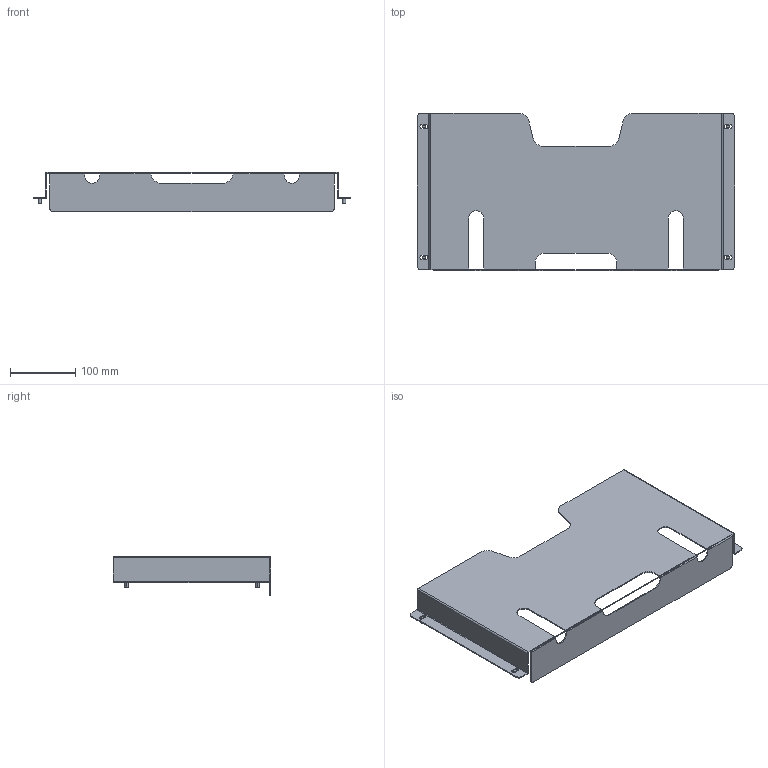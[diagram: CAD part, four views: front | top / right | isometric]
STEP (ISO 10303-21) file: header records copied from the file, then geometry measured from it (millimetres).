
FILE_DESCRIPTION(('CAx-IF Rec.Pracs.---Model Styling and Organization---1.2---2011-12-15','CAx-IF Rec.Pracs.---Geometric and Assembly Validation Properties---4.1---2014-06-16','CAx-IF Rec.Pracs.---PMI Polyline Presentation---2.0---2013-05-24'),'2;1');
FILE_NAME('R5TE60.stp','2021-05-05T13:18:15+03:00',(''),(''),'STEP Interface 4.4 by CT CoreTechnologie','3D_Evolution4.4 by CT CoreTechnologie','');
FILE_SCHEMA(('AUTOMOTIVE_DESIGN { 1 0 10303 214 1 1 1 1 }'));
Length unit declared in the file: millimetre
Products named in the file (3): R5TE60; A2200002; AC00C247
Assembly tree (5 placements, depth 2):
  R5TE60
    A2200002  x4
    AC00C247
Bounding box: 485 x 240 x 60 mm (x, y, z)
Surface area: 291079.4 mm2 (no closed solid volume)
Topology: 0 solids, 5 shells, 123 faces, 325 edges, 202 vertices
Faces by surface type: plane 67, cylinder 56
Entity records: 3711 total; most frequent: DIRECTION 641, CARTESIAN_POINT 614, ORIENTED_EDGE 610, EDGE_CURVE 307, AXIS2_PLACEMENT_3D 219, VECTOR 203, LINE 203, VERTEX_POINT 192
